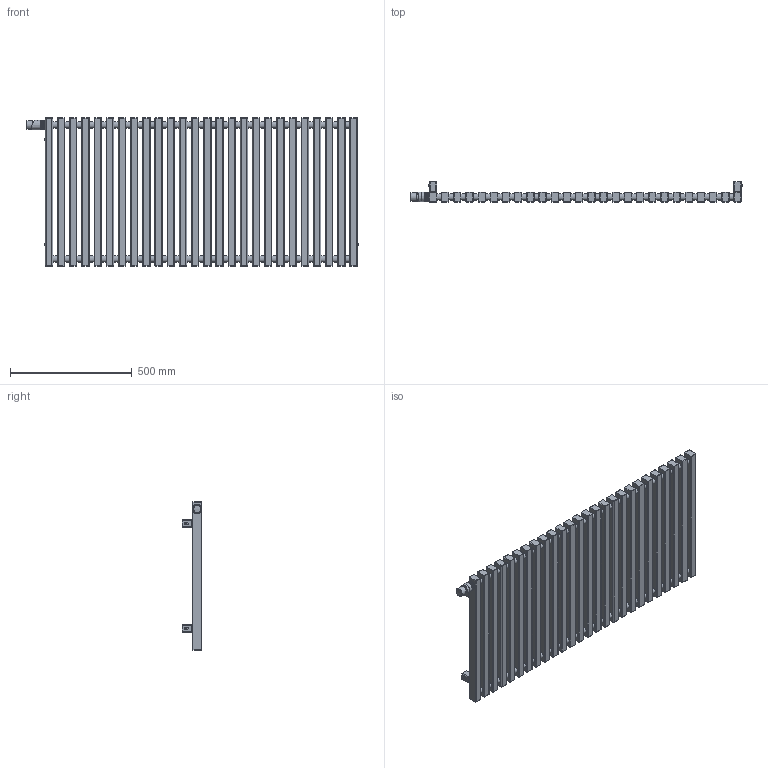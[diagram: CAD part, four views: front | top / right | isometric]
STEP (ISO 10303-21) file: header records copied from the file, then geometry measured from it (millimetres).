
FILE_DESCRIPTION((''),'2;1');
FILE_NAME('Z:\R\G\P\RGP029 - Grzejnik Triga ( ZET)\Work\Inventor\Triga v1.1\Marketing\AutoCad 3D\G-TR-XX-MK-XX-61-12-VL.stp','2012-07-26T13:27:02',('DawPi'),(''),'Autodesk Inventor 2012','Autodesk Inventor 2012','');
FILE_SCHEMA(('AUTOMOTIVE_DESIGN { 1 0 10303 214 1 1 1 1 }'));
Length unit declared in the file: millimetre
Products named in the file (4): G-TR-XX-MK-XX-61-12-VL; MMT42; A40300A
Assembly tree (6 placements, depth 2):
  G-TR-XX-MK-XX-61-12-VL
    G-TR-XX-MK-XX-61-12-VL
    MMT42  x4
    A40300A
Bounding box: 1362.26 x 82 x 610 mm (x, y, z)
Volume: 19613152.1 mm3; surface area: 2279319.4 mm2
Topology: 6 solids, 7 shells, 993 faces, 2198 edges, 1311 vertices
Faces by surface type: cylinder 441, plane 303, bspline 209, cone 25, torus 14, sphere 1
Full cylindrical faces by diameter (mm): 4 x1, 4.134 x4, 4.509 x4, 5 x1, 10 x5, 11.445 x1, 12 x4, 18.631 x2, 25 x50, 26.211 x1, 28 x1, 30 x1, 31 x1, 33.8 x1, 34 x2, 35 x3, 36 x4, 38 x3
Entity records: 39084 total; most frequent: CARTESIAN_POINT 20490, DIRECTION 4126, ORIENTED_EDGE 3540, EDGE_CURVE 1770, AXIS2_PLACEMENT_3D 1701, VERTEX_POINT 1096, EDGE_LOOP 1088, CIRCLE 1040
